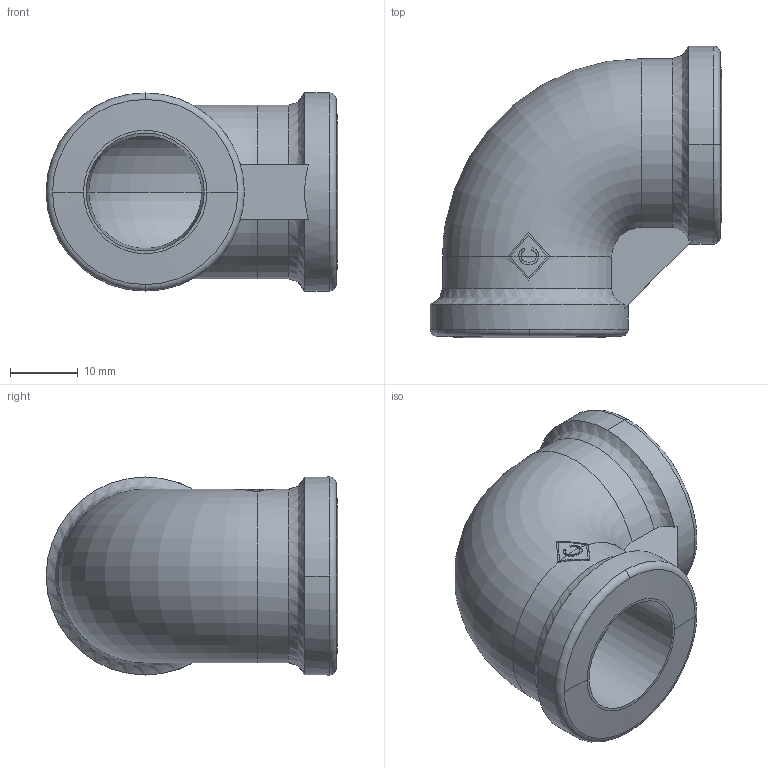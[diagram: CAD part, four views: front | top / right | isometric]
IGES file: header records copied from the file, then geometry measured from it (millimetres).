
Global section: file name: No Iges File Name specified; native system: AutoDesk Inventor R12.0; preprocessor: AutoDesk Inventor Iges Exporter R12.0; date: 20090915.102648; units: millimetre
Bounding box: 43 x 43 x 29.2 mm (x, y, z)
Volume: 14021.4 mm3; surface area: 8098.4 mm2
Topology: 1 solids, 1 shells, 56 faces, 175 edges, 121 vertices
Faces by surface type: plane 15, bspline 12, cylinder 10, torus 9, revolution 6, cone 4
